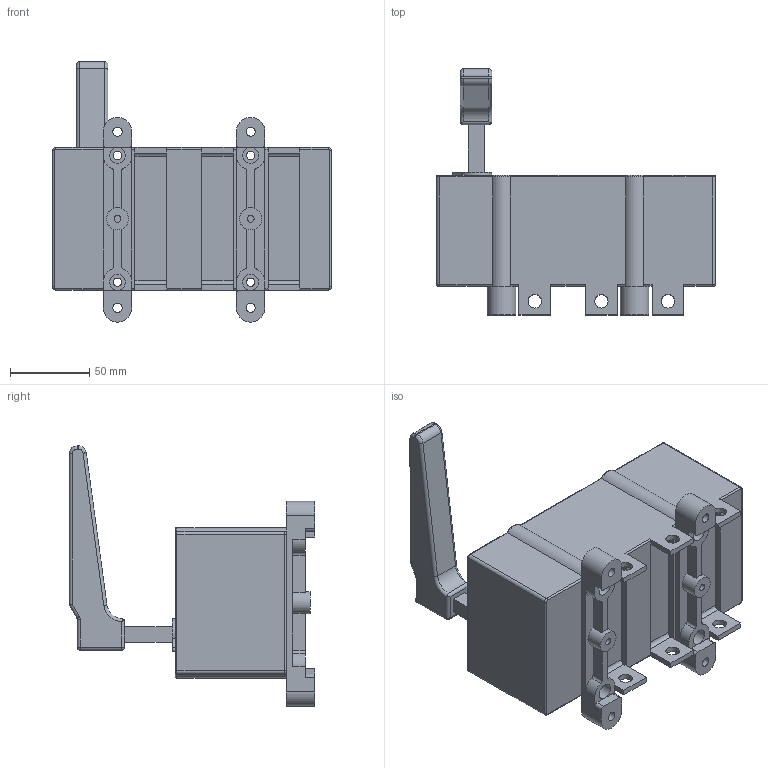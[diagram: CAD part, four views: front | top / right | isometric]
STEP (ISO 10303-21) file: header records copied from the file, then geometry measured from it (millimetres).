
FILE_DESCRIPTION(/* description */ (''),/* implementation_level */ '2;1');
FILE_NAME(/* name */ 'RA250 P3 C-R.stp',/* time_stamp */ '2021-08-18T08:33:33+02:00',/* author */ (''),/* organization */ (''),/* preprocessor_version */ 'ST-DEVELOPER v18.1',/* originating_system */ 'SIEMENS PLM Software NX 1965',/* authorisation */ '');
FILE_SCHEMA (('AUTOMOTIVE_DESIGN { 1 0 10303 214 3 1 1 1 }'));
Length unit declared in the file: millimetre
Products named in the file (1): RA250 P3 C-R_stp
Bounding box: 176 x 155 x 164.18 mm (x, y, z)
Volume: 1187027.6 mm3; surface area: 107299.4 mm2
Topology: 1 solids, 1 shells, 250 faces, 655 edges, 410 vertices
Faces by surface type: cylinder 116, plane 108, torus 15, sphere 6, bspline 5
Full cylindrical faces by diameter (mm): 4.3 x2, 5.3 x4, 5.8 x4, 8.5 x6, 10 x8, 14 x2
Entity records: 7550 total; most frequent: CARTESIAN_POINT 1445, DIRECTION 1315, ORIENTED_EDGE 1210, EDGE_CURVE 605, AXIS2_PLACEMENT_3D 486, VERTEX_POINT 392, LINE 343, VECTOR 343
